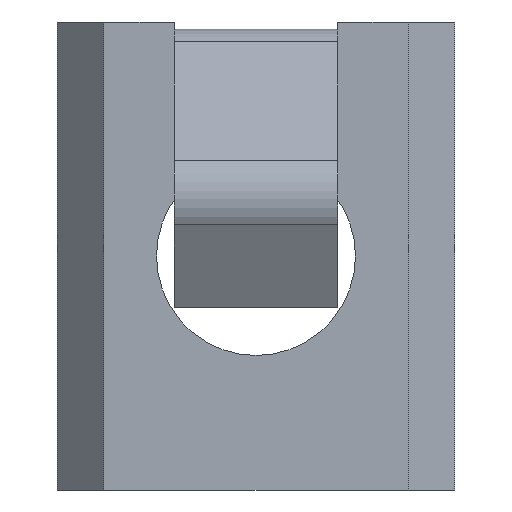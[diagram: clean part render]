
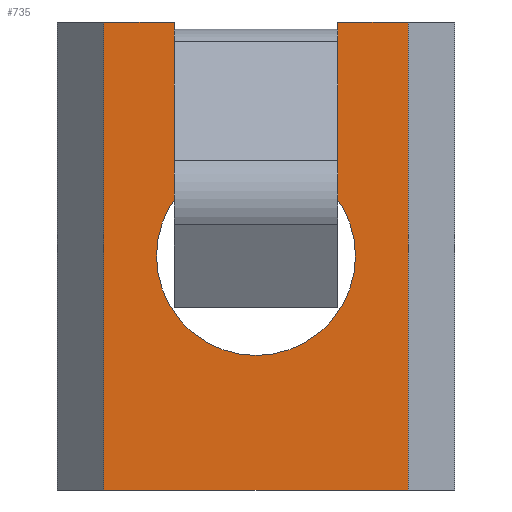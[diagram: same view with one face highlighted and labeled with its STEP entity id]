
A CAD part, front view. The second image highlights one B-rep face of the part: STEP entity #735.
In plain terms, the highlighted planar face has unit normal (0, -1, 0).
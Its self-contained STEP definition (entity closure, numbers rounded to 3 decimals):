
#4 = AXIS2_PLACEMENT_3D ( 'NONE', #214, #22, #422 ) ;
#22 = DIRECTION ( 'NONE',  ( 0., 1., 0. ) ) ;
#27 = FACE_OUTER_BOUND ( 'NONE', #844, .T. ) ;
#41 = VECTOR ( 'NONE', #549, 1000. ) ;
#44 = ORIENTED_EDGE ( 'NONE', *, *, #159, .F. ) ;
#65 = LINE ( 'NONE', #555, #492 ) ;
#101 = DIRECTION ( 'NONE',  ( 1., 0., 0. ) ) ;
#104 = DIRECTION ( 'NONE',  ( 0., 0., 1. ) ) ;
#131 = VERTEX_POINT ( 'NONE', #737 ) ;
#132 = LINE ( 'NONE', #625, #313 ) ;
#147 = CIRCLE ( 'NONE', #4, 4.25 ) ;
#149 = LINE ( 'NONE', #448, #676 ) ;
#156 = EDGE_CURVE ( 'NONE', #819, #423, #147, .T. ) ;
#159 = EDGE_CURVE ( 'NONE', #809, #131, #1051, .T. ) ;
#168 = LINE ( 'NONE', #1100, #513 ) ;
#178 = LINE ( 'NONE', #706, #41 ) ;
#187 = VECTOR ( 'NONE', #680, 1000. ) ;
#204 = FACE_BOUND ( 'NONE', #501, .T. ) ;
#212 = VERTEX_POINT ( 'NONE', #487 ) ;
#214 = CARTESIAN_POINT ( 'NONE',  ( 0., -7.5, 10. ) ) ;
#219 = CIRCLE ( 'NONE', #1021, 4.25 ) ;
#234 = LINE ( 'NONE', #717, #502 ) ;
#239 = CARTESIAN_POINT ( 'NONE',  ( 3.5, -7.5, 20. ) ) ;
#288 = CARTESIAN_POINT ( 'NONE',  ( 6.5, -7.5, 20. ) ) ;
#301 = ORIENTED_EDGE ( 'NONE', *, *, #156, .T. ) ;
#313 = VECTOR ( 'NONE', #104, 1000. ) ;
#318 = DIRECTION ( 'NONE',  ( 1., 0., 0. ) ) ;
#360 = VERTEX_POINT ( 'NONE', #847 ) ;
#361 = VECTOR ( 'NONE', #368, 1000. ) ;
#368 = DIRECTION ( 'NONE',  ( 1., 0., 0. ) ) ;
#380 = LINE ( 'NONE', #581, #935 ) ;
#422 = DIRECTION ( 'NONE',  ( -1., 0., 0. ) ) ;
#423 = VERTEX_POINT ( 'NONE', #765 ) ;
#435 = CARTESIAN_POINT ( 'NONE',  ( 6.5, -7.5, 20. ) ) ;
#448 = CARTESIAN_POINT ( 'NONE',  ( -6.5, -7.5, 20. ) ) ;
#465 = VERTEX_POINT ( 'NONE', #674 ) ;
#478 = ORIENTED_EDGE ( 'NONE', *, *, #768, .F. ) ;
#487 = CARTESIAN_POINT ( 'NONE',  ( -3.5, -7.5, 19.5 ) ) ;
#492 = VECTOR ( 'NONE', #101, 1000. ) ;
#496 = CARTESIAN_POINT ( 'NONE',  ( -3.5, -7.5, 19.7 ) ) ;
#501 = EDGE_LOOP ( 'NONE', ( #301, #564 ) ) ;
#502 = VECTOR ( 'NONE', #914, 1000. ) ;
#512 = VERTEX_POINT ( 'NONE', #1085 ) ;
#513 = VECTOR ( 'NONE', #318, 1000. ) ;
#517 = ORIENTED_EDGE ( 'NONE', *, *, #878, .F. ) ;
#521 = CARTESIAN_POINT ( 'NONE',  ( 0., -7.5, 10. ) ) ;
#538 = DIRECTION ( 'NONE',  ( 0., 0., 1. ) ) ;
#549 = DIRECTION ( 'NONE',  ( 0., 0., -1. ) ) ;
#553 = CARTESIAN_POINT ( 'NONE',  ( 3.5, -7.5, 19.5 ) ) ;
#555 = CARTESIAN_POINT ( 'NONE',  ( 6.5, -7.5, 20. ) ) ;
#564 = ORIENTED_EDGE ( 'NONE', *, *, #971, .T. ) ;
#566 = EDGE_CURVE ( 'NONE', #465, #964, #380, .T. ) ;
#581 = CARTESIAN_POINT ( 'NONE',  ( 3.5, -7.5, 17.5 ) ) ;
#582 = DIRECTION ( 'NONE',  ( 0., 0., -1. ) ) ;
#586 = EDGE_CURVE ( 'NONE', #726, #673, #65, .T. ) ;
#596 = ORIENTED_EDGE ( 'NONE', *, *, #895, .T. ) ;
#622 = CARTESIAN_POINT ( 'NONE',  ( 6.5, -7.5, 0. ) ) ;
#625 = CARTESIAN_POINT ( 'NONE',  ( -3.5, -7.5, 20. ) ) ;
#650 = EDGE_CURVE ( 'NONE', #726, #465, #234, .T. ) ;
#651 = LINE ( 'NONE', #861, #1093 ) ;
#667 = EDGE_CURVE ( 'NONE', #673, #809, #178, .T. ) ;
#673 = VERTEX_POINT ( 'NONE', #683 ) ;
#674 = CARTESIAN_POINT ( 'NONE',  ( 3.5, -7.5, 19.7 ) ) ;
#676 = VECTOR ( 'NONE', #538, 1000. ) ;
#680 = DIRECTION ( 'NONE',  ( -1., 0., 0. ) ) ;
#683 = CARTESIAN_POINT ( 'NONE',  ( 6.5, -7.5, 20. ) ) ;
#695 = AXIS2_PLACEMENT_3D ( 'NONE', #435, #1102, #1019 ) ;
#706 = CARTESIAN_POINT ( 'NONE',  ( 6.5, -7.5, 20. ) ) ;
#717 = CARTESIAN_POINT ( 'NONE',  ( 3.5, -7.5, 20. ) ) ;
#726 = VERTEX_POINT ( 'NONE', #239 ) ;
#728 = ORIENTED_EDGE ( 'NONE', *, *, #566, .T. ) ;
#735 = ADVANCED_FACE ( 'NONE', ( #204, #27 ), #915, .F. ) ;
#736 = DIRECTION ( 'NONE',  ( 0., 0., -1. ) ) ;
#737 = CARTESIAN_POINT ( 'NONE',  ( -6.5, -7.5, 0. ) ) ;
#757 = LINE ( 'NONE', #288, #361 ) ;
#765 = CARTESIAN_POINT ( 'NONE',  ( 0., -7.5, 5.75 ) ) ;
#768 = EDGE_CURVE ( 'NONE', #212, #964, #168, .T. ) ;
#809 = VERTEX_POINT ( 'NONE', #622 ) ;
#819 = VERTEX_POINT ( 'NONE', #975 ) ;
#835 = DIRECTION ( 'NONE',  ( -1., 0., 0. ) ) ;
#844 = EDGE_LOOP ( 'NONE', ( #1084, #596, #517, #851, #44, #880, #1036, #906, #728, #478 ) ) ;
#847 = CARTESIAN_POINT ( 'NONE',  ( -3.5, -7.5, 20. ) ) ;
#851 = ORIENTED_EDGE ( 'NONE', *, *, #961, .F. ) ;
#861 = CARTESIAN_POINT ( 'NONE',  ( -3.5, -7.5, 17.5 ) ) ;
#878 = EDGE_CURVE ( 'NONE', #512, #360, #757, .T. ) ;
#880 = ORIENTED_EDGE ( 'NONE', *, *, #667, .F. ) ;
#895 = EDGE_CURVE ( 'NONE', #1103, #360, #132, .T. ) ;
#906 = ORIENTED_EDGE ( 'NONE', *, *, #650, .T. ) ;
#914 = DIRECTION ( 'NONE',  ( 0., 0., -1. ) ) ;
#915 = PLANE ( 'NONE',  #695 ) ;
#935 = VECTOR ( 'NONE', #582, 1000. ) ;
#953 = CARTESIAN_POINT ( 'NONE',  ( 6.5, -7.5, 0. ) ) ;
#961 = EDGE_CURVE ( 'NONE', #131, #512, #149, .T. ) ;
#964 = VERTEX_POINT ( 'NONE', #553 ) ;
#971 = EDGE_CURVE ( 'NONE', #423, #819, #219, .T. ) ;
#975 = CARTESIAN_POINT ( 'NONE',  ( 0., -7.5, 14.25 ) ) ;
#978 = DIRECTION ( 'NONE',  ( 0., 1., 0. ) ) ;
#1019 = DIRECTION ( 'NONE',  ( -1., 0., 0. ) ) ;
#1021 = AXIS2_PLACEMENT_3D ( 'NONE', #521, #978, #835 ) ;
#1036 = ORIENTED_EDGE ( 'NONE', *, *, #586, .F. ) ;
#1051 = LINE ( 'NONE', #953, #187 ) ;
#1084 = ORIENTED_EDGE ( 'NONE', *, *, #1157, .F. ) ;
#1085 = CARTESIAN_POINT ( 'NONE',  ( -6.5, -7.5, 20. ) ) ;
#1093 = VECTOR ( 'NONE', #736, 1000. ) ;
#1100 = CARTESIAN_POINT ( 'NONE',  ( 6.5, -7.5, 19.5 ) ) ;
#1102 = DIRECTION ( 'NONE',  ( 0., 1., 0. ) ) ;
#1103 = VERTEX_POINT ( 'NONE', #496 ) ;
#1157 = EDGE_CURVE ( 'NONE', #1103, #212, #651, .T. ) ;
